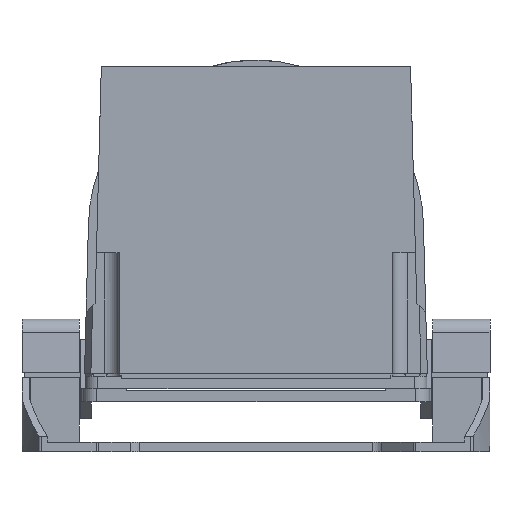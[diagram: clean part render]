
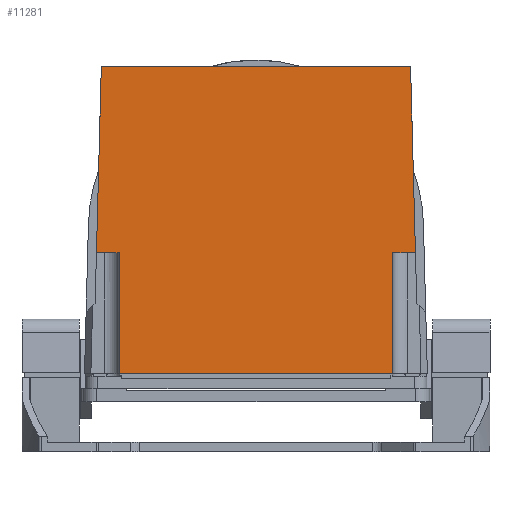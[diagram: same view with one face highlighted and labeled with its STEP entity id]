
A CAD part, front view. The second image highlights one B-rep face of the part: STEP entity #11281.
In plain terms, the highlighted planar face has unit normal (0, -1, 0) as drawn and (0, 0, -1) by its records, which use the part's own axes.
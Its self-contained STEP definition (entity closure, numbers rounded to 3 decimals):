
#9301=CARTESIAN_POINT('',(-131.,-55.622,-112.404));
#9302=VERTEX_POINT('',#9301);
#9403=CARTESIAN_POINT('',(-131.,55.878,-112.404));
#9404=VERTEX_POINT('',#9403);
#9405=CARTESIAN_POINT('',(-131.,55.878,-112.404));
#9406=DIRECTION('',(0.,-1.,0.));
#9407=VECTOR('',#9406,111.5);
#9408=LINE('',#9405,#9407);
#9409=EDGE_CURVE('',#9302,#9404,#9408,.F.);
#10194=CARTESIAN_POINT('',(-131.,56.146,-112.404));
#10195=VERTEX_POINT('',#10194);
#10203=CARTESIAN_POINT('',(-131.,56.146,-112.404));
#10204=DIRECTION('',(0.,-1.0,0.));
#10205=VECTOR('',#10204,0.267);
#10206=LINE('',#10203,#10205);
#10207=EDGE_CURVE('',#9404,#10195,#10206,.F.);
#10220=CARTESIAN_POINT('',(-131.,-56.146,-112.404));
#10221=VERTEX_POINT('',#10220);
#10222=CARTESIAN_POINT('',(-131.,-55.622,-112.404));
#10223=DIRECTION('',(0.,-1.,0.));
#10224=VECTOR('',#10223,0.524);
#10225=LINE('',#10222,#10224);
#10226=EDGE_CURVE('',#10221,#9302,#10225,.F.);
#10426=CARTESIAN_POINT('',(-81.277,-56.146,-112.404));
#10427=VERTEX_POINT('',#10426);
#10428=CARTESIAN_POINT('',(-81.277,-56.146,-112.404));
#10429=DIRECTION('',(-1.0,0.0,0.0));
#10430=VECTOR('',#10429,49.723);
#10431=LINE('',#10428,#10430);
#10432=EDGE_CURVE('',#10427,#10221,#10431,.T.);
#10450=CARTESIAN_POINT('',(-81.277,65.439,-112.404));
#10451=VERTEX_POINT('',#10450);
#10458=CARTESIAN_POINT('',(-81.277,56.146,-112.404));
#10459=VERTEX_POINT('',#10458);
#10460=CARTESIAN_POINT('',(-81.277,56.146,-112.404));
#10461=DIRECTION('',(0.0,1.0,0.0));
#10462=VECTOR('',#10461,9.293);
#10463=LINE('',#10460,#10462);
#10464=EDGE_CURVE('',#10459,#10451,#10463,.T.);
#11012=CARTESIAN_POINT('',(-5.,63.442,-112.404));
#11013=VERTEX_POINT('',#11012);
#11022=CARTESIAN_POINT('',(-81.277,65.439,-112.404));
#11023=DIRECTION('',(1.,-0.026,0.));
#11024=VECTOR('',#11023,76.303);
#11025=LINE('',#11022,#11024);
#11026=EDGE_CURVE('',#11013,#10451,#11025,.F.);
#11049=CARTESIAN_POINT('',(-5.,-63.442,-112.404));
#11050=VERTEX_POINT('',#11049);
#11057=CARTESIAN_POINT('',(-5.,-63.442,-112.404));
#11058=DIRECTION('',(0.0,1.0,0.0));
#11059=VECTOR('',#11058,126.883);
#11060=LINE('',#11057,#11059);
#11061=EDGE_CURVE('',#11050,#11013,#11060,.T.);
#11119=CARTESIAN_POINT('',(-81.277,-65.439,-112.404));
#11120=VERTEX_POINT('',#11119);
#11127=CARTESIAN_POINT('',(-5.,-63.442,-112.404));
#11128=DIRECTION('',(-1.,-0.026,0.));
#11129=VECTOR('',#11128,76.303);
#11130=LINE('',#11127,#11129);
#11131=EDGE_CURVE('',#11050,#11120,#11130,.T.);
#11254=CARTESIAN_POINT('',(-5.,-63.442,-112.404));
#11255=DIRECTION('',(0.0,0.0,-1.0));
#11256=DIRECTION('',(-1.0,0.0,0.0));
#11257=AXIS2_PLACEMENT_3D('',#11254,#11255,#11256);
#11258=PLANE('',#11257);
#11259=ORIENTED_EDGE('',*,*,#10226,.T.);
#11260=ORIENTED_EDGE('',*,*,#9409,.T.);
#11261=ORIENTED_EDGE('',*,*,#10207,.T.);
#11262=CARTESIAN_POINT('',(-131.,56.146,-112.404));
#11263=DIRECTION('',(1.0,0.0,0.0));
#11264=VECTOR('',#11263,49.723);
#11265=LINE('',#11262,#11264);
#11266=EDGE_CURVE('',#10195,#10459,#11265,.T.);
#11267=ORIENTED_EDGE('',*,*,#11266,.T.);
#11268=ORIENTED_EDGE('',*,*,#10464,.T.);
#11269=ORIENTED_EDGE('',*,*,#11026,.F.);
#11270=ORIENTED_EDGE('',*,*,#11061,.F.);
#11271=ORIENTED_EDGE('',*,*,#11131,.T.);
#11272=CARTESIAN_POINT('',(-81.277,-65.439,-112.404));
#11273=DIRECTION('',(0.0,1.0,0.0));
#11274=VECTOR('',#11273,9.293);
#11275=LINE('',#11272,#11274);
#11276=EDGE_CURVE('',#11120,#10427,#11275,.T.);
#11277=ORIENTED_EDGE('',*,*,#11276,.T.);
#11278=ORIENTED_EDGE('',*,*,#10432,.T.);
#11279=EDGE_LOOP('',(#11259,#11260,#11261,#11267,#11268,#11269,#11270,#11271,#11277,#11278));
#11280=FACE_OUTER_BOUND('',#11279,.T.);
#11281=ADVANCED_FACE('',(#11280),#11258,.T.);
